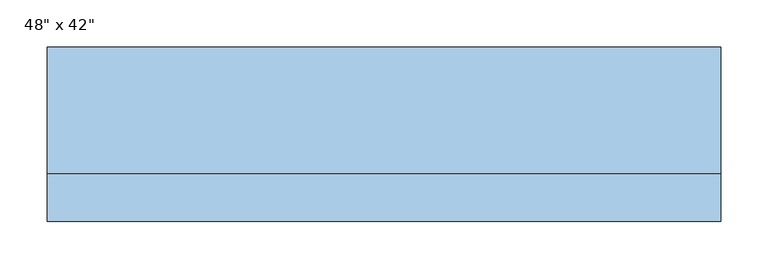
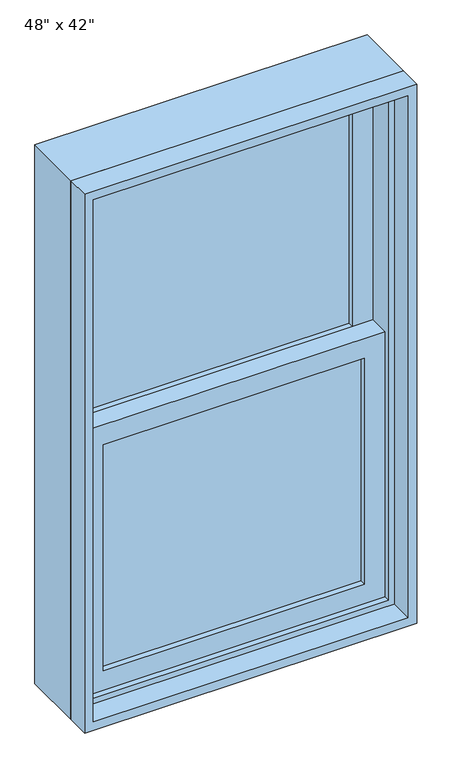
"""IFC4 building model written with IfcOpenShell, lengths in millimetres: window geometry."""

from ifc_helpers import new_model, si_unit, frame, origin, place, context, project, spatial, polyline, outline, extrude, source, transform, mapped, element, save


def window_1484e1a5(model_context):
    return source(origin(), model_context, "Body", "SweptSolid", [
        extrude(outline(polyline([(279.4, 12.7), (279.4, 6.35), (-279.4, 6.35), (-279.4, 12.7), (279.4, 12.7)])), frame((0.0, 0.0, 990.6), z_axis=(0.0, 0.0, 1.0), x_axis=(1.0, 0.0, 0.0)), (0.0, 0.0, 1.0), 511.175),
        extrude(outline(polyline([(-279.4, 0.0), (279.4, 0.0), (279.4, -6.35), (-279.4, -6.35), (-279.4, 0.0)])), frame((0.0, 0.0, 990.6), z_axis=(0.0, 0.0, 1.0), x_axis=(1.0, 0.0, 0.0)), (0.0, 0.0, 1.0), 511.175),
        extrude(outline(polyline([(279.4, 57.15), (279.4, 50.8), (-279.4, 50.8), (-279.4, 57.15), (279.4, 57.15)])), frame((0.0, 0.0, 1546.225), z_axis=(0.0, 0.0, 1.0), x_axis=(1.0, 0.0, 0.0)), (0.0, 0.0, 1.0), 511.175),
        extrude(outline(polyline([(-279.4, 44.45), (279.4, 44.45), (279.4, 38.1), (-279.4, 38.1), (-279.4, 44.45)])), frame((0.0, 0.0, 1546.225), z_axis=(0.0, 0.0, 1.0), x_axis=(1.0, 0.0, 0.0)), (0.0, 0.0, 1.0), 511.175),
        extrude(outline(polyline([(1546.225, -323.85), (946.15, -323.85), (946.15, 323.85), (1546.225, 323.85), (1546.225, -323.85)]), holes=[polyline([(1501.775, 279.4), (990.6, 279.4), (990.6, -279.4), (1501.775, -279.4), (1501.775, 279.4)])]), frame((0.0, -19.05, 0.0), z_axis=(0.0, 1.0, 0.0), x_axis=(0.0, 0.0, 1.0)), (0.0, 0.0, 1.0), 44.45),
        extrude(outline(polyline([(2101.85, -323.85), (1501.775, -323.85), (1501.775, 323.85), (2101.85, 323.85), (2101.85, -323.85)]), holes=[polyline([(2057.4, 279.4), (1546.225, 279.4), (1546.225, -279.4), (2057.4, -279.4), (2057.4, 279.4)])]), frame((0.0, 25.4, 0.0), z_axis=(0.0, 1.0, 0.0), x_axis=(0.0, 0.0, 1.0)), (0.0, 0.0, 1.0), 44.45),
        extrude(outline(polyline([(2133.6, -355.6), (914.4, -355.6), (914.4, 355.6), (2133.6, 355.6), (2133.6, -355.6)]), holes=[polyline([(2101.85, 323.85), (946.15, 323.85), (946.15, -323.85), (2101.85, -323.85), (2101.85, 323.85)])]), frame((0.0, -31.75, 0.0), z_axis=(0.0, 1.0, 0.0), x_axis=(0.0, 0.0, 1.0)), (0.0, 0.0, 1.0), 133.35),
        extrude(outline(polyline([(2133.6, 355.6), (2133.6, -355.6), (914.4, -355.6), (914.4, 355.6), (2133.6, 355.6)]), holes=[polyline([(2114.55, 336.55), (933.45, 336.55), (933.45, -336.55), (2114.55, -336.55), (2114.55, 336.55)])]), frame((0.0, -82.55, 0.0), z_axis=(0.0, 1.0, 0.0), x_axis=(0.0, 0.0, 1.0)), (0.0, 0.0, 1.0), 50.8),
    ])


if __name__ == "__main__":
    model = new_model("IFC4")
    model_context = context("Model", 3, world=origin())
    ifc_project = project(units=[si_unit("LENGTHUNIT", "METRE", prefix="MILLI")], contexts=[model_context])
    site = spatial("IfcSite", under=ifc_project)
    building = spatial("IfcBuilding", under=site)
    placement = place(None, origin())
    window_shape = window_1484e1a5(model_context)
    element("IfcWindow", 1, ObjectType="Planitar-Double-Hung-Single : 48\" x 42\"", at=placement, inside=building, context=model_context, shape_type="MappedRepresentation", body=[
        mapped(window_shape, transform((0.0, 0.0, 0.0), x_axis=(1.0, 0.0, 0.0), y_axis=(0.0, 1.0, 0.0), z_axis=(0.0, 0.0, 1.0))),
    ])
    save(model, "model.ifc")
